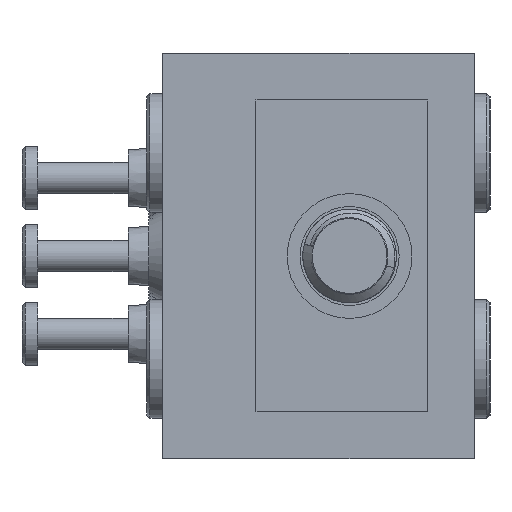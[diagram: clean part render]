
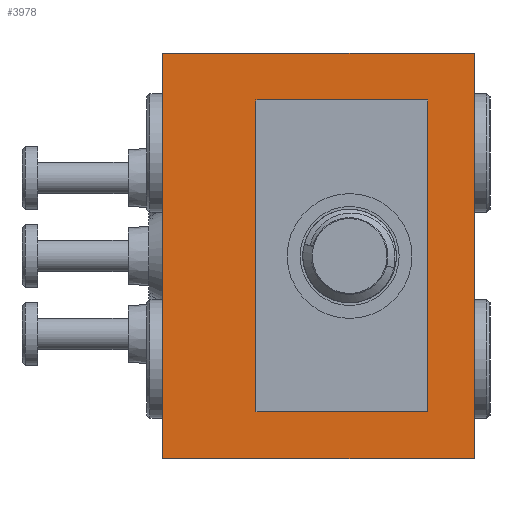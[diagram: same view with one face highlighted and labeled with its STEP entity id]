
A CAD part, left-side view. The second image highlights one B-rep face of the part: STEP entity #3978.
In plain terms, the highlighted planar face has unit normal (-1, 0, 0).
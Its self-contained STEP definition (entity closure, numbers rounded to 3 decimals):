
#75 = ORIENTED_EDGE ( 'NONE', *, *, #6332, .F. ) ;
#211 = CARTESIAN_POINT ( 'NONE',  ( -38., 2., -5. ) ) ;
#331 = DIRECTION ( 'NONE',  ( 0., 0., -1. ) ) ;
#722 = FACE_OUTER_BOUND ( 'NONE', #3434, .T. ) ;
#977 = EDGE_CURVE ( 'NONE', #2389, #12759, #8611, .T. ) ;
#1014 = CARTESIAN_POINT ( 'NONE',  ( -38., 2., 5. ) ) ;
#1118 = EDGE_CURVE ( 'NONE', #12200, #10295, #7682, .T. ) ;
#1453 = CARTESIAN_POINT ( 'NONE',  ( -38., 2., -5. ) ) ;
#2034 = ORIENTED_EDGE ( 'NONE', *, *, #9048, .F. ) ;
#2164 = ORIENTED_EDGE ( 'NONE', *, *, #1118, .T. ) ;
#2208 = EDGE_LOOP ( 'NONE', ( #2034, #75, #5584, #2791 ) ) ;
#2363 = EDGE_CURVE ( 'NONE', #12200, #16368, #12003, .T. ) ;
#2389 = VERTEX_POINT ( 'NONE', #12103 ) ;
#2569 = VECTOR ( 'NONE', #9668, 1000. ) ;
#2791 = ORIENTED_EDGE ( 'NONE', *, *, #9280, .F. ) ;
#3099 = VERTEX_POINT ( 'NONE', #18651 ) ;
#3434 = EDGE_LOOP ( 'NONE', ( #8151, #5961, #10633, #2164 ) ) ;
#3775 = VECTOR ( 'NONE', #16300, 1000. ) ;
#3924 = LINE ( 'NONE', #11660, #7389 ) ;
#3947 = VERTEX_POINT ( 'NONE', #17915 ) ;
#3978 = ADVANCED_FACE ( 'NONE', ( #8998, #722 ), #4673, .F. ) ;
#4673 = PLANE ( 'NONE',  #15532 ) ;
#4683 = VECTOR ( 'NONE', #7707, 1000. ) ;
#5584 = ORIENTED_EDGE ( 'NONE', *, *, #977, .F. ) ;
#5961 = ORIENTED_EDGE ( 'NONE', *, *, #9414, .F. ) ;
#6332 = EDGE_CURVE ( 'NONE', #12759, #18424, #17881, .T. ) ;
#6530 = DIRECTION ( 'NONE',  ( 0., 0., 1. ) ) ;
#7133 = CARTESIAN_POINT ( 'NONE',  ( -38., 5., 6.5 ) ) ;
#7167 = VECTOR ( 'NONE', #6530, 1000. ) ;
#7389 = VECTOR ( 'NONE', #18939, 1000. ) ;
#7638 = CARTESIAN_POINT ( 'NONE',  ( -38., 5., 6.5 ) ) ;
#7682 = LINE ( 'NONE', #18373, #3775 ) ;
#7707 = DIRECTION ( 'NONE',  ( 0., 0., -1. ) ) ;
#8151 = ORIENTED_EDGE ( 'NONE', *, *, #8800, .T. ) ;
#8611 = LINE ( 'NONE', #1453, #4683 ) ;
#8776 = VECTOR ( 'NONE', #11292, 1000. ) ;
#8800 = EDGE_CURVE ( 'NONE', #10295, #3099, #10398, .T. ) ;
#8998 = FACE_BOUND ( 'NONE', #2208, .T. ) ;
#9043 = CARTESIAN_POINT ( 'NONE',  ( -38., -5., 6.5 ) ) ;
#9048 = EDGE_CURVE ( 'NONE', #18424, #3947, #11076, .T. ) ;
#9130 = DIRECTION ( 'NONE',  ( 1., 0., 0. ) ) ;
#9248 = DIRECTION ( 'NONE',  ( 0., -1., 0. ) ) ;
#9280 = EDGE_CURVE ( 'NONE', #3947, #2389, #18031, .T. ) ;
#9414 = EDGE_CURVE ( 'NONE', #16368, #3099, #3924, .T. ) ;
#9668 = DIRECTION ( 'NONE',  ( 0., -1., 0. ) ) ;
#10295 = VERTEX_POINT ( 'NONE', #19079 ) ;
#10398 = LINE ( 'NONE', #14067, #2569 ) ;
#10633 = ORIENTED_EDGE ( 'NONE', *, *, #2363, .F. ) ;
#11076 = LINE ( 'NONE', #16817, #7167 ) ;
#11292 = DIRECTION ( 'NONE',  ( 0., 1., 0. ) ) ;
#11660 = CARTESIAN_POINT ( 'NONE',  ( -38., -5., 6.5 ) ) ;
#12003 = LINE ( 'NONE', #7133, #15989 ) ;
#12103 = CARTESIAN_POINT ( 'NONE',  ( -38., 2., 5. ) ) ;
#12200 = VERTEX_POINT ( 'NONE', #13167 ) ;
#12759 = VERTEX_POINT ( 'NONE', #16218 ) ;
#13167 = CARTESIAN_POINT ( 'NONE',  ( -38., 5., 6.5 ) ) ;
#13458 = VECTOR ( 'NONE', #16379, 1000. ) ;
#14067 = CARTESIAN_POINT ( 'NONE',  ( -38., 5., -6.5 ) ) ;
#14821 = CARTESIAN_POINT ( 'NONE',  ( -38., -3.5, -5. ) ) ;
#15532 = AXIS2_PLACEMENT_3D ( 'NONE', #7638, #9130, #331 ) ;
#15989 = VECTOR ( 'NONE', #9248, 1000. ) ;
#16218 = CARTESIAN_POINT ( 'NONE',  ( -38., 2., -5. ) ) ;
#16300 = DIRECTION ( 'NONE',  ( 0., 0., -1. ) ) ;
#16368 = VERTEX_POINT ( 'NONE', #9043 ) ;
#16379 = DIRECTION ( 'NONE',  ( 0., -1., 0. ) ) ;
#16817 = CARTESIAN_POINT ( 'NONE',  ( -38., -3.5, -5. ) ) ;
#17881 = LINE ( 'NONE', #211, #13458 ) ;
#17915 = CARTESIAN_POINT ( 'NONE',  ( -38., -3.5, 5. ) ) ;
#18031 = LINE ( 'NONE', #1014, #8776 ) ;
#18373 = CARTESIAN_POINT ( 'NONE',  ( -38., 5., 6.5 ) ) ;
#18424 = VERTEX_POINT ( 'NONE', #14821 ) ;
#18651 = CARTESIAN_POINT ( 'NONE',  ( -38., -5., -6.5 ) ) ;
#18939 = DIRECTION ( 'NONE',  ( 0., 0., -1. ) ) ;
#19079 = CARTESIAN_POINT ( 'NONE',  ( -38., 5., -6.5 ) ) ;
